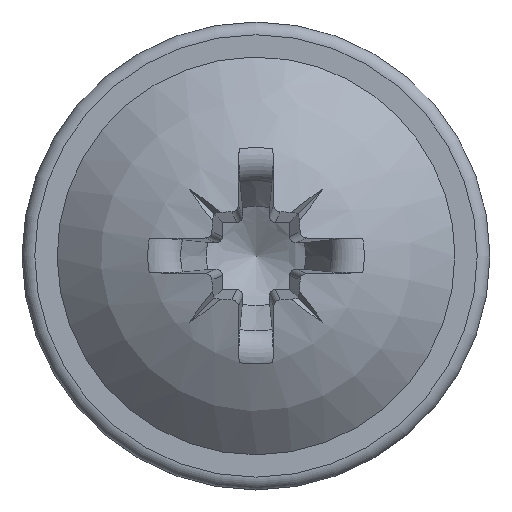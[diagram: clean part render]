
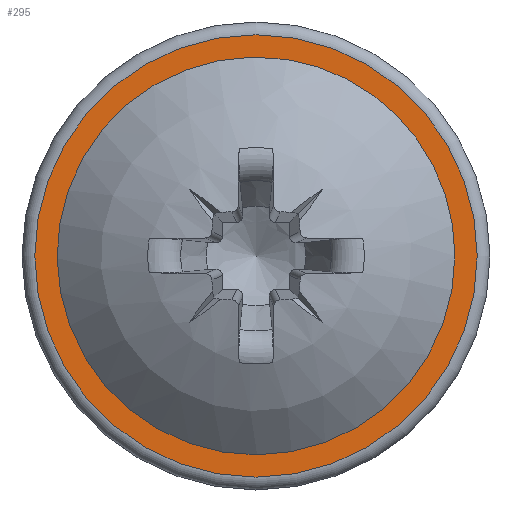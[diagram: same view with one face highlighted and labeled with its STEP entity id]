
A CAD part, top view. The second image highlights one B-rep face of the part: STEP entity #295.
In plain terms, the highlighted planar face has unit normal (0, 0, 1).
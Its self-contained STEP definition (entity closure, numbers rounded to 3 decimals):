
#81=PLANE('',#1652);
#269=FACE_BOUND('',#497,.T.);
#270=FACE_BOUND('',#498,.T.);
#295=ADVANCED_FACE('',(#269,#270),#81,.F.);
#497=EDGE_LOOP('',(#722));
#498=EDGE_LOOP('',(#723));
#594=CIRCLE('',#1610,4.675);
#629=CIRCLE('',#1651,5.2);
#722=ORIENTED_EDGE('',*,*,#1333,.T.);
#723=ORIENTED_EDGE('',*,*,#1282,.F.);
#1132=VERTEX_POINT('',#2912);
#1181=VERTEX_POINT('',#3222);
#1282=EDGE_CURVE('',#1132,#1132,#594,.T.);
#1333=EDGE_CURVE('',#1181,#1181,#629,.T.);
#1610=AXIS2_PLACEMENT_3D('',#2911,#1721,#1722);
#1651=AXIS2_PLACEMENT_3D('',#3221,#1804,#1805);
#1652=AXIS2_PLACEMENT_3D('',#3223,#1806,#1807);
#1721=DIRECTION('',(0.,0.,1.));
#1722=DIRECTION('',(1.,0.,0.));
#1804=DIRECTION('',(0.,0.,1.));
#1805=DIRECTION('',(-1.,0.,0.));
#1806=DIRECTION('',(0.,0.,-1.));
#1807=DIRECTION('',(-1.,0.,0.));
#2911=CARTESIAN_POINT('',(0.,0.,1.2));
#2912=CARTESIAN_POINT('',(4.675,0.,1.2));
#3221=CARTESIAN_POINT('',(0.,0.,1.2));
#3222=CARTESIAN_POINT('',(-5.2,0.,1.2));
#3223=CARTESIAN_POINT('',(0.,5.5,1.2));
